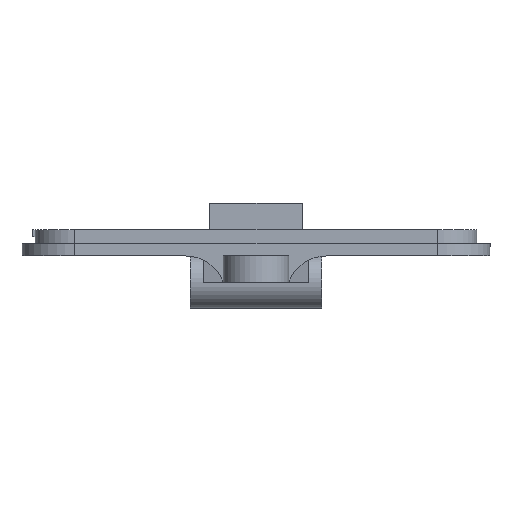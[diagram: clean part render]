
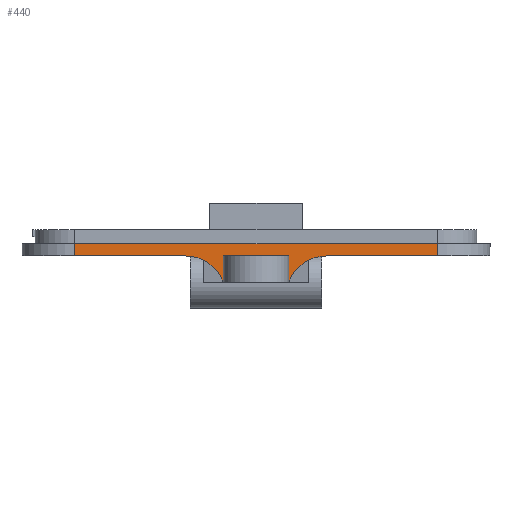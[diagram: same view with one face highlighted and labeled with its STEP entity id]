
A CAD part, left-side view. The second image highlights one B-rep face of the part: STEP entity #440.
In plain terms, the highlighted planar face has unit normal (-1, 0, 0).
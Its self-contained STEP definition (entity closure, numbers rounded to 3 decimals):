
#19 = AXIS2_PLACEMENT_3D ( 'NONE', #722, #1663, #288 ) ;
#71 = ORIENTED_EDGE ( 'NONE', *, *, #786, .T. ) ;
#96 = CARTESIAN_POINT ( 'NONE',  ( -32.8, 13.8, 0. ) ) ;
#107 = ORIENTED_EDGE ( 'NONE', *, *, #392, .T. ) ;
#119 = CIRCLE ( 'NONE', #1976, 3. ) ;
#121 = VECTOR ( 'NONE', #880, 1000. ) ;
#134 = EDGE_CURVE ( 'NONE', #570, #1849, #1967, .T. ) ;
#161 = DIRECTION ( 'NONE',  ( 0., 1., 0. ) ) ;
#193 = PLANE ( 'NONE',  #1813 ) ;
#198 = ORIENTED_EDGE ( 'NONE', *, *, #1046, .T. ) ;
#201 = FACE_OUTER_BOUND ( 'NONE', #556, .T. ) ;
#202 = EDGE_CURVE ( 'NONE', #705, #1849, #891, .T. ) ;
#263 = LINE ( 'NONE', #847, #1848 ) ;
#288 = DIRECTION ( 'NONE',  ( 0., 0., -1. ) ) ;
#295 = CARTESIAN_POINT ( 'NONE',  ( -32.8, -2.501, 0. ) ) ;
#314 = CARTESIAN_POINT ( 'NONE',  ( -32.8, -13.8, 2. ) ) ;
#321 = DIRECTION ( 'NONE',  ( 1., 0., 0. ) ) ;
#342 = VECTOR ( 'NONE', #593, 1000. ) ;
#348 = VERTEX_POINT ( 'NONE', #1836 ) ;
#388 = LINE ( 'NONE', #1294, #1786 ) ;
#392 = EDGE_CURVE ( 'NONE', #1170, #348, #463, .T. ) ;
#427 = DIRECTION ( 'NONE',  ( 0., 0., -1. ) ) ;
#440 = ADVANCED_FACE ( 'NONE', ( #201 ), #193, .F. ) ;
#463 = LINE ( 'NONE', #314, #1278 ) ;
#487 = EDGE_CURVE ( 'NONE', #1805, #705, #388, .T. ) ;
#516 = DIRECTION ( 'NONE',  ( 1., 0., 0. ) ) ;
#556 = EDGE_LOOP ( 'NONE', ( #107, #1423, #645, #820, #1828, #1323, #1796, #1095, #71, #198 ) ) ;
#568 = CARTESIAN_POINT ( 'NONE',  ( -32.8, 13.8, 0. ) ) ;
#570 = VERTEX_POINT ( 'NONE', #1355 ) ;
#593 = DIRECTION ( 'NONE',  ( 0., 0., -1. ) ) ;
#645 = ORIENTED_EDGE ( 'NONE', *, *, #1907, .T. ) ;
#705 = VERTEX_POINT ( 'NONE', #1394 ) ;
#722 = CARTESIAN_POINT ( 'NONE',  ( -32.8, 5.327, -3. ) ) ;
#734 = VECTOR ( 'NONE', #161, 1000. ) ;
#773 = EDGE_CURVE ( 'NONE', #348, #946, #1362, .T. ) ;
#784 = DIRECTION ( 'NONE',  ( 0., 0., -1. ) ) ;
#786 = EDGE_CURVE ( 'NONE', #1726, #1393, #119, .T. ) ;
#808 = CARTESIAN_POINT ( 'NONE',  ( -32.8, 13.8, 0.926 ) ) ;
#820 = ORIENTED_EDGE ( 'NONE', *, *, #487, .T. ) ;
#847 = CARTESIAN_POINT ( 'NONE',  ( -32.8, 17.8, 0. ) ) ;
#880 = DIRECTION ( 'NONE',  ( 0., -1., 0. ) ) ;
#891 = CIRCLE ( 'NONE', #19, 3. ) ;
#897 = DIRECTION ( 'NONE',  ( 0., 0., 1. ) ) ;
#904 = CARTESIAN_POINT ( 'NONE',  ( -32.8, 2.499, 2. ) ) ;
#932 = DIRECTION ( 'NONE',  ( 0., 0., 1. ) ) ;
#946 = VERTEX_POINT ( 'NONE', #808 ) ;
#993 = CARTESIAN_POINT ( 'NONE',  ( -32.8, 17.8, 2. ) ) ;
#1003 = DIRECTION ( 'NONE',  ( 0., -1., 0. ) ) ;
#1046 = EDGE_CURVE ( 'NONE', #1393, #1170, #1649, .T. ) ;
#1067 = EDGE_CURVE ( 'NONE', #570, #1980, #263, .T. ) ;
#1095 = ORIENTED_EDGE ( 'NONE', *, *, #1572, .F. ) ;
#1116 = CARTESIAN_POINT ( 'NONE',  ( -32.8, -5.33, 0. ) ) ;
#1170 = VERTEX_POINT ( 'NONE', #1208 ) ;
#1200 = CARTESIAN_POINT ( 'NONE',  ( -32.8, 17.8, 0. ) ) ;
#1208 = CARTESIAN_POINT ( 'NONE',  ( -32.8, -13.8, 0. ) ) ;
#1278 = VECTOR ( 'NONE', #932, 1000. ) ;
#1294 = CARTESIAN_POINT ( 'NONE',  ( -32.8, 17.8, 0. ) ) ;
#1323 = ORIENTED_EDGE ( 'NONE', *, *, #134, .F. ) ;
#1325 = CARTESIAN_POINT ( 'NONE',  ( -32.8, 2.499, -2. ) ) ;
#1355 = CARTESIAN_POINT ( 'NONE',  ( -32.8, 2.499, 0. ) ) ;
#1362 = LINE ( 'NONE', #1539, #734 ) ;
#1380 = CARTESIAN_POINT ( 'NONE',  ( -32.8, -2.501, 2. ) ) ;
#1393 = VERTEX_POINT ( 'NONE', #1116 ) ;
#1394 = CARTESIAN_POINT ( 'NONE',  ( -32.8, 5.327, 0. ) ) ;
#1423 = ORIENTED_EDGE ( 'NONE', *, *, #773, .T. ) ;
#1539 = CARTESIAN_POINT ( 'NONE',  ( -32.8, -13.8, 0.926 ) ) ;
#1572 = EDGE_CURVE ( 'NONE', #1726, #1980, #1955, .T. ) ;
#1573 = DIRECTION ( 'NONE',  ( 0., 0., -1. ) ) ;
#1583 = CARTESIAN_POINT ( 'NONE',  ( -32.8, -2.501, -2. ) ) ;
#1590 = VECTOR ( 'NONE', #427, 1000. ) ;
#1601 = VECTOR ( 'NONE', #897, 1000. ) ;
#1649 = LINE ( 'NONE', #1200, #121 ) ;
#1663 = DIRECTION ( 'NONE',  ( 1., 0., 0. ) ) ;
#1698 = CARTESIAN_POINT ( 'NONE',  ( -32.8, -5.33, -3. ) ) ;
#1726 = VERTEX_POINT ( 'NONE', #1583 ) ;
#1786 = VECTOR ( 'NONE', #1003, 1000. ) ;
#1796 = ORIENTED_EDGE ( 'NONE', *, *, #1067, .T. ) ;
#1805 = VERTEX_POINT ( 'NONE', #96 ) ;
#1813 = AXIS2_PLACEMENT_3D ( 'NONE', #993, #516, #1573 ) ;
#1828 = ORIENTED_EDGE ( 'NONE', *, *, #202, .T. ) ;
#1836 = CARTESIAN_POINT ( 'NONE',  ( -32.8, -13.8, 0.926 ) ) ;
#1848 = VECTOR ( 'NONE', #1917, 1000. ) ;
#1849 = VERTEX_POINT ( 'NONE', #1325 ) ;
#1907 = EDGE_CURVE ( 'NONE', #946, #1805, #1939, .T. ) ;
#1917 = DIRECTION ( 'NONE',  ( 0., -1., 0. ) ) ;
#1939 = LINE ( 'NONE', #568, #342 ) ;
#1955 = LINE ( 'NONE', #1380, #1601 ) ;
#1967 = LINE ( 'NONE', #904, #1590 ) ;
#1976 = AXIS2_PLACEMENT_3D ( 'NONE', #1698, #321, #784 ) ;
#1980 = VERTEX_POINT ( 'NONE', #295 ) ;
